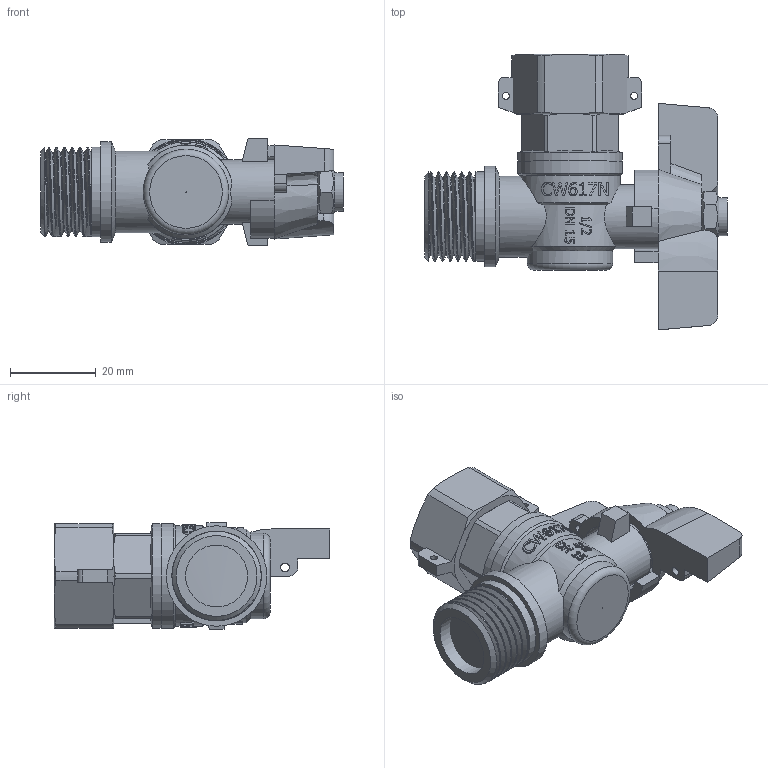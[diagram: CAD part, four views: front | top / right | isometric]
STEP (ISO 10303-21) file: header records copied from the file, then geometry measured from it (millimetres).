
FILE_DESCRIPTION(/* description */ (''),/* implementation_level */ '2;1');
FILE_NAME(/* name */ 'C:\Users\Doom\Desktop\Фадотех\KG11 08.11.2021\KG11 08.11.2021.stp',/* time_stamp */ '2021-12-04T22:31:01+02:00',/* author */ ('Doom'),/* organization */ (''),/* preprocessor_version */ 'ST-DEVELOPER v18',/* originating_system */ 'Autodesk Inventor 2020',/* authorisation */ '');
FILE_SCHEMA (('AUTOMOTIVE_DESIGN { 1 0 10303 214 3 1 1 }'));
Products named in the file (10): KG11 08.11.2021; 50102048100; KA2 08.11.2021; 22232003; KA1 08.11.2021; 20642011; KA2 08.11.2021_1; 50502000246; 50802000246; DIN 985 - M6
Assembly tree (9 placements, depth 2):
  KG11 08.11.2021
    50102048100
    KA2 08.11.2021
    22232003
    KA1 08.11.2021
    20642011
    KA2 08.11.2021_1
    50502000246
    50802000246
    DIN 985 - M6
Bounding box: 70.8 x 64.5 x 25 mm (x, y, z)
Volume: 28288.7 mm3; surface area: 31332.8 mm2
Topology: 18 solids, 18 shells, 733 faces, 2042 edges, 1385 vertices
Faces by surface type: plane 304, cylinder 193, bspline 181, cone 48, torus 6, sphere 1
Full cylindrical faces by diameter (mm): 0.01 x1, 1.6 x2, 2 x2, 4.517 x2, 4.917 x1, 6.2 x1, 8 x4, 8.2 x1, 8.9 x1, 9.5 x1, 9.517 x3, 10 x5, 10.3 x1, 10.517 x2, 10.552 x1, 11 x2, 11.027 x1, 12 x4, 13 x1, 13.018 x4, 14.5 x1, 14.7 x1, 14.718 x2, 15 x3, 15.155 x1, 16.5 x1, 16.7 x9, 16.9 x1, 17 x1, 17.196 x6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
Entity records: 54919 total; most frequent: CARTESIAN_POINT 37070, ORIENTED_EDGE 4042, DIRECTION 3068, EDGE_CURVE 2021, VERTEX_POINT 1375, AXIS2_PLACEMENT_3D 1185, EDGE_LOOP 832, FACE_OUTER_BOUND 733
